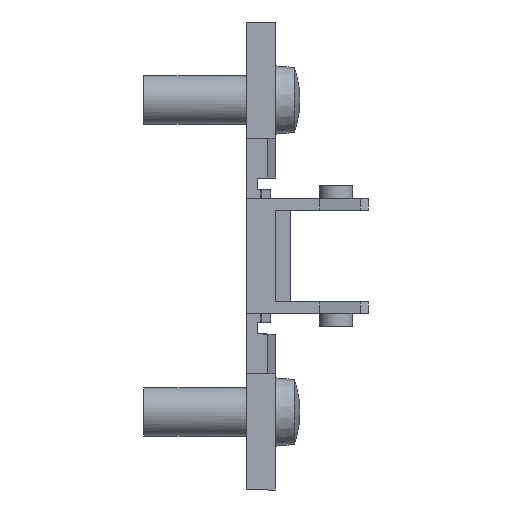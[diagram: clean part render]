
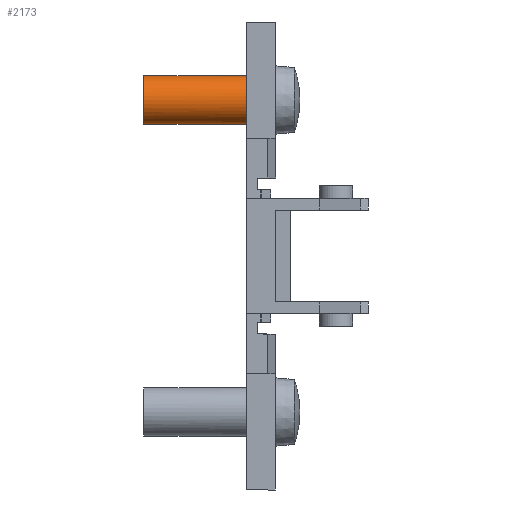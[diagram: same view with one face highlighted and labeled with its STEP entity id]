
A CAD part, front view. The second image highlights one B-rep face of the part: STEP entity #2173.
In plain terms, the highlighted cylindrical face has radius 2.5 mm (diameter 5 mm), a partial arc.
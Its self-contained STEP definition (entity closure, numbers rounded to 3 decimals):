
#111 = DIRECTION ( 'NONE',  ( -1., 0., 0. ) ) ;
#262 = VERTEX_POINT ( 'NONE', #3004 ) ;
#453 = EDGE_CURVE ( 'NONE', #262, #1437, #2408, .T. ) ;
#497 = VERTEX_POINT ( 'NONE', #2380 ) ;
#504 = EDGE_CURVE ( 'NONE', #1039, #1437, #2956, .T. ) ;
#542 = CARTESIAN_POINT ( 'NONE',  ( -12.5, 0., 13.5 ) ) ;
#555 = ORIENTED_EDGE ( 'NONE', *, *, #3893, .F. ) ;
#593 = EDGE_CURVE ( 'NONE', #4108, #262, #3990, .T. ) ;
#633 = VECTOR ( 'NONE', #111, 1000. ) ;
#730 = DIRECTION ( 'NONE',  ( 0., 0., -1. ) ) ;
#944 = EDGE_LOOP ( 'NONE', ( #3590, #1836, #3839, #2342, #3942, #555 ) ) ;
#999 = CARTESIAN_POINT ( 'NONE',  ( -2., 0., 16. ) ) ;
#1039 = VERTEX_POINT ( 'NONE', #4424 ) ;
#1142 = AXIS2_PLACEMENT_3D ( 'NONE', #2734, #1368, #3086 ) ;
#1250 = CIRCLE ( 'NONE', #1417, 2.5 ) ;
#1333 = CARTESIAN_POINT ( 'NONE',  ( -12.5, 0., 16. ) ) ;
#1360 = DIRECTION ( 'NONE',  ( 0., 0., -1. ) ) ;
#1368 = DIRECTION ( 'NONE',  ( 1., 0., 0. ) ) ;
#1417 = AXIS2_PLACEMENT_3D ( 'NONE', #1951, #3339, #3660 ) ;
#1437 = VERTEX_POINT ( 'NONE', #2312 ) ;
#1729 = DIRECTION ( 'NONE',  ( 1., 0., 0. ) ) ;
#1755 = CIRCLE ( 'NONE', #2784, 2.5 ) ;
#1836 = ORIENTED_EDGE ( 'NONE', *, *, #4212, .T. ) ;
#1951 = CARTESIAN_POINT ( 'NONE',  ( -2., 0., 16. ) ) ;
#2029 = CARTESIAN_POINT ( 'NONE',  ( -2., 0., 18.5 ) ) ;
#2170 = AXIS2_PLACEMENT_3D ( 'NONE', #1333, #4423, #2446 ) ;
#2173 = ADVANCED_FACE ( 'NONE', ( #4137 ), #2297, .T. ) ;
#2297 = CYLINDRICAL_SURFACE ( 'NONE', #2170, 2.5 ) ;
#2312 = CARTESIAN_POINT ( 'NONE',  ( -12.5, 0., 13.5 ) ) ;
#2340 = LINE ( 'NONE', #2548, #633 ) ;
#2342 = ORIENTED_EDGE ( 'NONE', *, *, #453, .F. ) ;
#2380 = CARTESIAN_POINT ( 'NONE',  ( -2., -2.25, 17.09 ) ) ;
#2408 = LINE ( 'NONE', #542, #3607 ) ;
#2446 = DIRECTION ( 'NONE',  ( 0., 0., -1. ) ) ;
#2548 = CARTESIAN_POINT ( 'NONE',  ( -12.5, 0., 18.5 ) ) ;
#2734 = CARTESIAN_POINT ( 'NONE',  ( -12.5, 0., 16. ) ) ;
#2779 = AXIS2_PLACEMENT_3D ( 'NONE', #3837, #3822, #730 ) ;
#2784 = AXIS2_PLACEMENT_3D ( 'NONE', #999, #1729, #1360 ) ;
#2956 = CIRCLE ( 'NONE', #1142, 2.5 ) ;
#2997 = DIRECTION ( 'NONE',  ( -1., 0., 0. ) ) ;
#3004 = CARTESIAN_POINT ( 'NONE',  ( -2., 0., 13.5 ) ) ;
#3086 = DIRECTION ( 'NONE',  ( 0., 0., -1. ) ) ;
#3339 = DIRECTION ( 'NONE',  ( 1., 0., 0. ) ) ;
#3590 = ORIENTED_EDGE ( 'NONE', *, *, #4253, .F. ) ;
#3607 = VECTOR ( 'NONE', #2997, 1000. ) ;
#3660 = DIRECTION ( 'NONE',  ( 0., 0., -1. ) ) ;
#3822 = DIRECTION ( 'NONE',  ( 1., 0., 0. ) ) ;
#3837 = CARTESIAN_POINT ( 'NONE',  ( -2., 0., 16. ) ) ;
#3839 = ORIENTED_EDGE ( 'NONE', *, *, #504, .T. ) ;
#3893 = EDGE_CURVE ( 'NONE', #497, #4108, #1755, .T. ) ;
#3942 = ORIENTED_EDGE ( 'NONE', *, *, #593, .F. ) ;
#3990 = CIRCLE ( 'NONE', #2779, 2.5 ) ;
#4108 = VERTEX_POINT ( 'NONE', #4164 ) ;
#4137 = FACE_OUTER_BOUND ( 'NONE', #944, .T. ) ;
#4164 = CARTESIAN_POINT ( 'NONE',  ( -2., -2.25, 14.91 ) ) ;
#4212 = EDGE_CURVE ( 'NONE', #4379, #1039, #2340, .T. ) ;
#4253 = EDGE_CURVE ( 'NONE', #4379, #497, #1250, .T. ) ;
#4379 = VERTEX_POINT ( 'NONE', #2029 ) ;
#4423 = DIRECTION ( 'NONE',  ( -1., 0., 0. ) ) ;
#4424 = CARTESIAN_POINT ( 'NONE',  ( -12.5, 0., 18.5 ) ) ;
